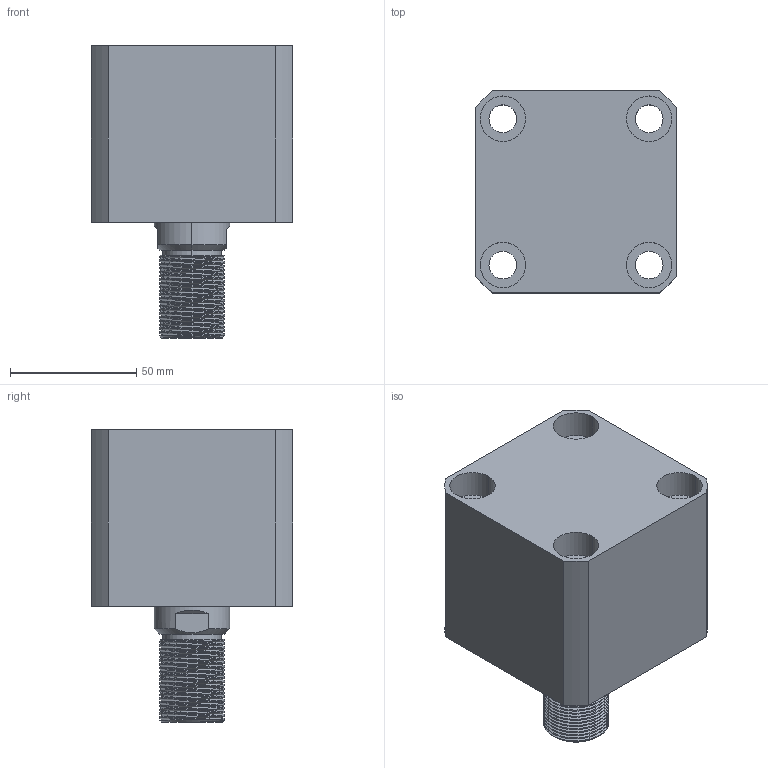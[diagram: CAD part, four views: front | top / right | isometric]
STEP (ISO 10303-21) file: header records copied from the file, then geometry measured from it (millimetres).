
FILE_DESCRIPTION (( 'STEP AP203' ), '1' );
FILE_NAME ('CHTB-SDMA50-10W.STEP', '2018-05-19T01:19:49', ( '' ), ( '' ), 'SwSTEP 2.0', 'SolidWorks 2015', '' );
FILE_SCHEMA (( 'CONFIG_CONTROL_DESIGN' ));
Length unit declared in the file: millimetre
Products named in the file (5): M6; 掛极SDMA50-10W; CHTB-SDMA50-10W; 活塞杆SDMA50-10W; CHTM-SDMA50QG
Assembly tree (5 placements, depth 2):
  CHTB-SDMA50-10W
    掛极SDMA50-10W
    活塞杆SDMA50-10W
    M6  x2
    CHTM-SDMA50QG
Bounding box: 80 x 80 x 116 mm (x, y, z)
Volume: 407959.2 mm3; surface area: 89633.8 mm2
Topology: 5 solids, 5 shells, 314 faces, 835 edges, 555 vertices
Faces by surface type: cylinder 179, plane 61, cone 30, bspline 28, torus 16
Entity records: 17982 total; most frequent: CARTESIAN_POINT 11061, ORIENTED_EDGE 1476, DIRECTION 1176, EDGE_CURVE 738, VERTEX_POINT 494, AXIS2_PLACEMENT_3D 474, EDGE_LOOP 322, ADVANCED_FACE 279
